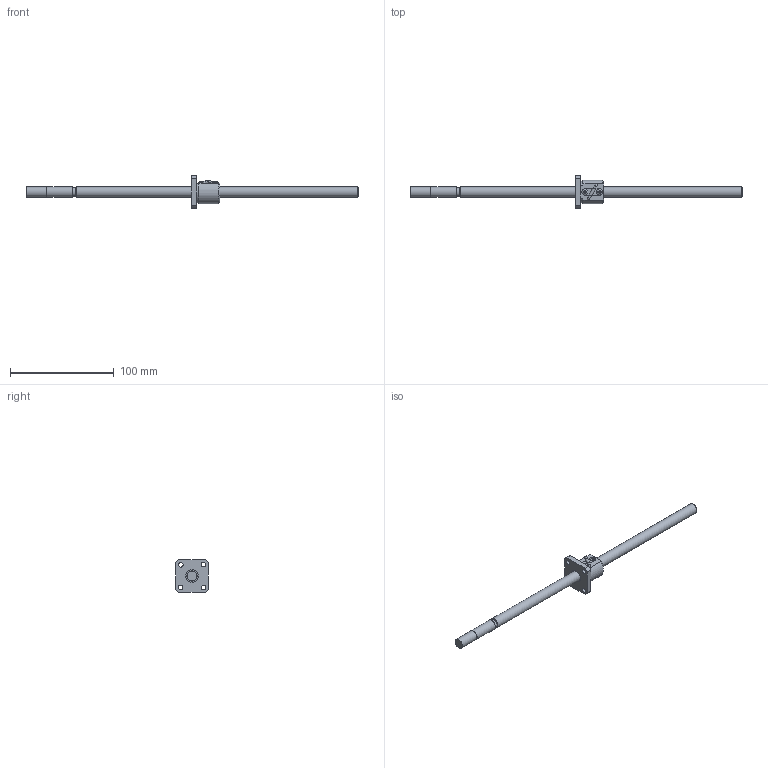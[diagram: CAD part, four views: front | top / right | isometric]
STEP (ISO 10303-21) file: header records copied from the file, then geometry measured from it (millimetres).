
FILE_DESCRIPTION((''),'2;1');
FILE_NAME('D:\製品 (図面)\カタログ用3D\ネジ関連\STEP形式\KBS(C)\KBS(C)1002-320.stp','2010-06-02T09:14:21',('Tsuchiya'),(''),'Autodesk Inventor 10','Autodesk Inventor 10','');
FILE_SCHEMA(('AUTOMOTIVE_DESIGN { 1 0 10303 214 1 1 1 1 }'));
Length unit declared in the file: millimetre
Products named in the file (3): KBS(C)1002-320; KBS(C)1002-3201; KBS(C)1002-3202
Assembly tree (2 placements, depth 2):
  KBS(C)1002-320
    KBS(C)1002-3201
    KBS(C)1002-3202
Bounding box: 320 x 31 x 31 mm (x, y, z)
Volume: 35420.2 mm3; surface area: 15384.9 mm2
Topology: 2 solids, 2 shells, 92 faces, 242 edges, 161 vertices
Faces by surface type: plane 37, cylinder 30, bspline 20, cone 3, torus 2
Full cylindrical faces by diameter (mm): 2.1 x1, 4.5 x4, 5.6 x1, 8.6 x1, 9.7 x1, 10 x3, 12 x2
Entity records: 3099 total; most frequent: CARTESIAN_POINT 910, ORIENTED_EDGE 430, DIRECTION 404, EDGE_CURVE 215, VERTEX_POINT 154, AXIS2_PLACEMENT_3D 146, EDGE_LOOP 135, VECTOR 112
